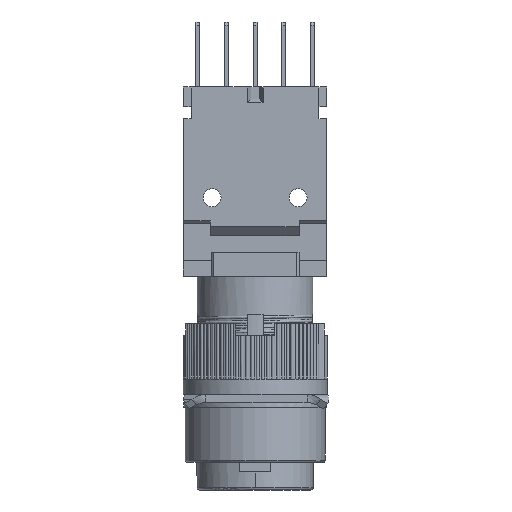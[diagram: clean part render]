
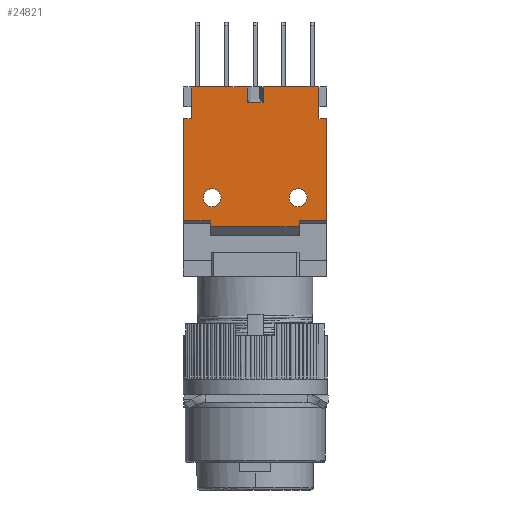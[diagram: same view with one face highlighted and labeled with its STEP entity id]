
A CAD part, front view. The second image highlights one B-rep face of the part: STEP entity #24821.
In plain terms, the highlighted planar face has unit normal (0, -1, 0).
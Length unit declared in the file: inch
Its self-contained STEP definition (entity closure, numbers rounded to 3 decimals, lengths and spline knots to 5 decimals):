
#5467=DIRECTION('',(0.,0.,1.));
#5468=VECTOR('',#5467,4.);
#5469=CARTESIAN_POINT('',(17.1,0.,-12.2));
#5470=LINE('',#5469,#5468);
#5551=DIRECTION('',(-1.,0.,0.));
#5552=VECTOR('',#5551,1.);
#5553=CARTESIAN_POINT('',(18.1,0.,-12.2));
#5554=LINE('',#5553,#5552);
#5567=DIRECTION('',(1.,0.,0.));
#5568=VECTOR('',#5567,7.05);
#5569=CARTESIAN_POINT('',(10.05,0.,-8.2));
#5570=LINE('',#5569,#5568);
#5571=DIRECTION('',(0.,0.,-1.));
#5572=VECTOR('',#5571,12.9);
#5573=CARTESIAN_POINT('',(18.1,0.,-12.2));
#5574=LINE('',#5573,#5572);
#5575=DIRECTION('',(0.,0.,-1.));
#5576=VECTOR('',#5575,0.75);
#5577=CARTESIAN_POINT('',(14.6,0.,-25.1));
#5578=LINE('',#5577,#5576);
#5579=DIRECTION('',(0.,0.,1.));
#5580=VECTOR('',#5579,12.9);
#5581=CARTESIAN_POINT('',(0.,0.,-25.1));
#5582=LINE('',#5581,#5580);
#5583=DIRECTION('',(0.,0.,1.));
#5584=VECTOR('',#5583,4.);
#5585=CARTESIAN_POINT('',(1.,0.,-12.2));
#5586=LINE('',#5585,#5584);
#5587=DIRECTION('',(1.,0.,0.));
#5588=VECTOR('',#5587,7.05);
#5589=CARTESIAN_POINT('',(1.,0.,-8.2));
#5590=LINE('',#5589,#5588);
#5591=CARTESIAN_POINT('',(14.475,0.,-22.165));
#5592=DIRECTION('',(0.,-1.,0.));
#5593=DIRECTION('',(-1.,0.,0.));
#5594=AXIS2_PLACEMENT_3D('',#5591,#5592,#5593);
#5596=CARTESIAN_POINT('',(14.475,0.,-22.165));
#5597=DIRECTION('',(0.,-1.,0.));
#5598=DIRECTION('',(1.,0.,0.));
#5599=AXIS2_PLACEMENT_3D('',#5596,#5597,#5598);
#5601=CARTESIAN_POINT('',(3.625,0.,-22.165));
#5602=DIRECTION('',(0.,-1.,0.));
#5603=DIRECTION('',(-1.,0.,0.));
#5604=AXIS2_PLACEMENT_3D('',#5601,#5602,#5603);
#5606=CARTESIAN_POINT('',(3.625,0.,-22.165));
#5607=DIRECTION('',(0.,-1.,0.));
#5608=DIRECTION('',(1.,0.,0.));
#5609=AXIS2_PLACEMENT_3D('',#5606,#5607,#5608);
#5611=DIRECTION('',(0.,0.,-1.));
#5612=VECTOR('',#5611,2.);
#5613=CARTESIAN_POINT('',(10.05,0.,-8.2));
#5614=LINE('',#5613,#5612);
#5615=DIRECTION('',(-1.,0.,0.));
#5616=VECTOR('',#5615,2.);
#5617=CARTESIAN_POINT('',(10.05,0.,-10.2));
#5618=LINE('',#5617,#5616);
#5627=DIRECTION('',(0.,0.,1.));
#5628=VECTOR('',#5627,2.);
#5629=CARTESIAN_POINT('',(8.05,0.,-10.2));
#5630=LINE('',#5629,#5628);
#5651=DIRECTION('',(1.,0.,0.));
#5652=VECTOR('',#5651,3.5);
#5653=CARTESIAN_POINT('',(14.6,0.,-25.1));
#5654=LINE('',#5653,#5652);
#7596=DIRECTION('',(1.,0.,0.));
#7597=VECTOR('',#7596,3.4);
#7598=CARTESIAN_POINT('',(0.,0.,-25.1));
#7599=LINE('',#7598,#7597);
#7608=DIRECTION('',(0.,0.,-1.));
#7609=VECTOR('',#7608,0.75);
#7610=CARTESIAN_POINT('',(3.4,0.,-25.1));
#7611=LINE('',#7610,#7609);
#7616=DIRECTION('',(1.,0.,0.));
#7617=VECTOR('',#7616,11.2);
#7618=CARTESIAN_POINT('',(3.4,0.,-25.85));
#7619=LINE('',#7618,#7617);
#7664=DIRECTION('',(-1.,0.,0.));
#7665=VECTOR('',#7664,1.);
#7666=CARTESIAN_POINT('',(1.,0.,-12.2));
#7667=LINE('',#7666,#7665);
#16761=CARTESIAN_POINT('',(18.1,0.,-25.1));
#16762=VERTEX_POINT('',#16761);
#16763=CARTESIAN_POINT('',(18.1,0.,-12.2));
#16764=VERTEX_POINT('',#16763);
#16803=CARTESIAN_POINT('',(17.1,0.,-8.2));
#16804=VERTEX_POINT('',#16803);
#16805=CARTESIAN_POINT('',(10.05,0.,-8.2));
#16806=VERTEX_POINT('',#16805);
#16811=CARTESIAN_POINT('',(8.05,0.,-8.2));
#16812=VERTEX_POINT('',#16811);
#16813=CARTESIAN_POINT('',(1.,0.,-8.2));
#16814=VERTEX_POINT('',#16813);
#17467=CARTESIAN_POINT('',(14.6,0.,-25.1));
#17468=CARTESIAN_POINT('',(14.6,0.,-25.85));
#17469=VERTEX_POINT('',#17467);
#17470=VERTEX_POINT('',#17468);
#17575=CARTESIAN_POINT('',(0.,0.,-12.2));
#17576=VERTEX_POINT('',#17575);
#17577=CARTESIAN_POINT('',(0.,0.,-25.1));
#17579=VERTEX_POINT('',#17577);
#17604=CARTESIAN_POINT('',(1.,0.,-12.2));
#17606=VERTEX_POINT('',#17604);
#17625=CARTESIAN_POINT('',(13.35,0.,-22.165));
#17626=CARTESIAN_POINT('',(15.6,0.,-22.165));
#17627=VERTEX_POINT('',#17625);
#17628=VERTEX_POINT('',#17626);
#17629=CARTESIAN_POINT('',(2.5,0.,-22.165));
#17630=CARTESIAN_POINT('',(4.75,0.,-22.165));
#17631=VERTEX_POINT('',#17629);
#17632=VERTEX_POINT('',#17630);
#17633=CARTESIAN_POINT('',(10.05,0.,-10.2));
#17634=VERTEX_POINT('',#17633);
#17635=CARTESIAN_POINT('',(17.1,0.,-12.2));
#17636=VERTEX_POINT('',#17635);
#17637=CARTESIAN_POINT('',(3.4,0.,-25.85));
#17638=VERTEX_POINT('',#17637);
#17639=CARTESIAN_POINT('',(3.4,0.,-25.1));
#17640=VERTEX_POINT('',#17639);
#17641=CARTESIAN_POINT('',(8.05,0.,-10.2));
#17642=VERTEX_POINT('',#17641);
#24776=CARTESIAN_POINT('',(9.05,0.,-17.025));
#24777=DIRECTION('',(0.,1.,0.));
#24778=DIRECTION('',(1.,0.,0.));
#24779=AXIS2_PLACEMENT_3D('',#24776,#24777,#24778);
#24780=PLANE('',#24779);
#24782=ORIENTED_EDGE('',*,*,#24781,.F.);
#24783=ORIENTED_EDGE('',*,*,#24468,.T.);
#24784=ORIENTED_EDGE('',*,*,#24633,.F.);
#24785=ORIENTED_EDGE('',*,*,#24768,.F.);
#24786=ORIENTED_EDGE('',*,*,#24172,.T.);
#24788=ORIENTED_EDGE('',*,*,#24787,.F.);
#24790=ORIENTED_EDGE('',*,*,#24789,.T.);
#24792=ORIENTED_EDGE('',*,*,#24791,.F.);
#24794=ORIENTED_EDGE('',*,*,#24793,.F.);
#24796=ORIENTED_EDGE('',*,*,#24795,.F.);
#24797=ORIENTED_EDGE('',*,*,#24305,.T.);
#24799=ORIENTED_EDGE('',*,*,#24798,.F.);
#24801=ORIENTED_EDGE('',*,*,#24800,.T.);
#24802=ORIENTED_EDGE('',*,*,#24476,.T.);
#24804=ORIENTED_EDGE('',*,*,#24803,.F.);
#24806=ORIENTED_EDGE('',*,*,#24805,.F.);
#24807=EDGE_LOOP('',(#24782,#24783,#24784,#24785,#24786,#24788,#24790,#24792,
#24794,#24796,#24797,#24799,#24801,#24802,#24804,#24806));
#24808=FACE_OUTER_BOUND('',#24807,.F.);
#24810=ORIENTED_EDGE('',*,*,#24809,.T.);
#24812=ORIENTED_EDGE('',*,*,#24811,.T.);
#24813=EDGE_LOOP('',(#24810,#24812));
#24814=FACE_BOUND('',#24813,.F.);
#24816=ORIENTED_EDGE('',*,*,#24815,.T.);
#24818=ORIENTED_EDGE('',*,*,#24817,.T.);
#24819=EDGE_LOOP('',(#24816,#24818));
#24820=FACE_BOUND('',#24819,.F.);
#24821=ADVANCED_FACE('',(#24808,#24814,#24820),#24780,.F.);
#5595=CIRCLE('',#5594,1.125);
#5600=CIRCLE('',#5599,1.125);
#5605=CIRCLE('',#5604,1.125);
#5610=CIRCLE('',#5609,1.125);
#24172=EDGE_CURVE('',#16764,#16762,#5574,.T.);
#24305=EDGE_CURVE('',#17579,#17576,#5582,.T.);
#24468=EDGE_CURVE('',#16806,#16804,#5570,.T.);
#24476=EDGE_CURVE('',#16814,#16812,#5590,.T.);
#24633=EDGE_CURVE('',#17636,#16804,#5470,.T.);
#24768=EDGE_CURVE('',#16764,#17636,#5554,.T.);
#24781=EDGE_CURVE('',#16806,#17634,#5614,.T.);
#24787=EDGE_CURVE('',#17469,#16762,#5654,.T.);
#24789=EDGE_CURVE('',#17469,#17470,#5578,.T.);
#24791=EDGE_CURVE('',#17638,#17470,#7619,.T.);
#24793=EDGE_CURVE('',#17640,#17638,#7611,.T.);
#24795=EDGE_CURVE('',#17579,#17640,#7599,.T.);
#24798=EDGE_CURVE('',#17606,#17576,#7667,.T.);
#24800=EDGE_CURVE('',#17606,#16814,#5586,.T.);
#24803=EDGE_CURVE('',#17642,#16812,#5630,.T.);
#24805=EDGE_CURVE('',#17634,#17642,#5618,.T.);
#24809=EDGE_CURVE('',#17627,#17628,#5595,.T.);
#24811=EDGE_CURVE('',#17628,#17627,#5600,.T.);
#24815=EDGE_CURVE('',#17631,#17632,#5605,.T.);
#24817=EDGE_CURVE('',#17632,#17631,#5610,.T.);
